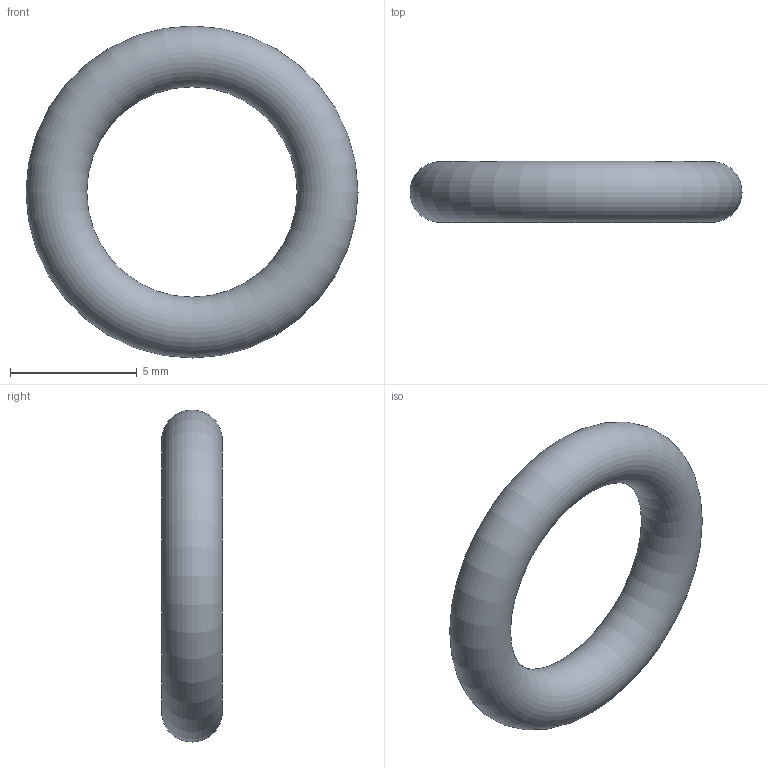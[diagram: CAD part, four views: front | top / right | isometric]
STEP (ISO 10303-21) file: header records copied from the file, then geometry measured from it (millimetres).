
FILE_DESCRIPTION( ( 'STEP AP203' ), '1' );
FILE_NAME( 'C:/Temp/Ganter_Step_05_03_2020/data/3_5/or638/O-Ring OR638-8.30-2.40-70.stp', '2020-03-12T13:44:25', ( 'License CC BY-ND 4.0' ), ( 'CADENAS' ), ' ', 'PARTsolutions', ' ' );
FILE_SCHEMA( ( 'CONFIG_CONTROL_DESIGN' ) );
Length unit declared in the file: millimetre
Products named in the file (1): _O-Ring OR638-8.30-2.40-70
Bounding box: 13.1 x 2.4 x 13.1 mm (x, y, z)
Volume: 152.1 mm3; surface area: 253.5 mm2
Topology: 1 solids, 1 shells, 1 faces, 2 edges, 1 vertices
Faces by surface type: torus 1
Entity records: 62 total; most frequent: CC_DESIGN_PERSON_AND_ORGANIZATION_ASSIGNMENT 5, PERSON_AND_ORGANIZATION_ROLE 4, DIRECTION 4, CARTESIAN_POINT 3, DATE_TIME_ROLE 2, CC_DESIGN_DATE_AND_TIME_ASSIGNMENT 2, AXIS2_PLACEMENT_3D 2, DIMENSIONAL_EXPONENTS 2
